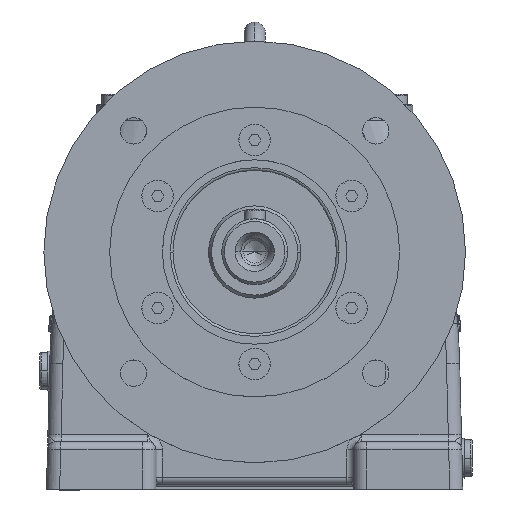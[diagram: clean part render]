
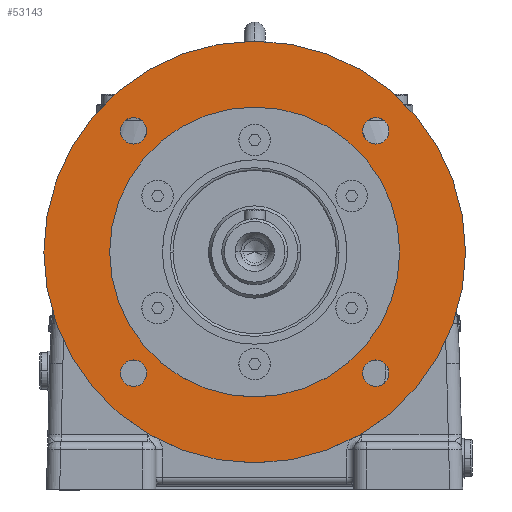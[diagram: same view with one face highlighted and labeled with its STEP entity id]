
A CAD part, top view. The second image highlights one B-rep face of the part: STEP entity #53143.
In plain terms, the highlighted planar face has unit normal (0, 0, 1).
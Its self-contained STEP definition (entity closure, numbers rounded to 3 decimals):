
#35477 = CARTESIAN_POINT ( 'NONE',  ( -40.962, 45.962, -5. ) ) ;
#35478 = DIRECTION ( 'NONE',  ( 1., 0., 0. ) ) ;
#35479 = DIRECTION ( 'NONE',  ( 0., 0., 1. ) ) ;
#35480 = CARTESIAN_POINT ( 'NONE',  ( -45.962, 45.962, -5. ) ) ;
#35481 = AXIS2_PLACEMENT_3D ( 'NONE', #35480, #35479, #35478 ) ;
#35482 = CIRCLE ( 'NONE', #35481, 5. ) ;
#35488 = CARTESIAN_POINT ( 'NONE',  ( -50.962, 45.962, -5. ) ) ;
#36940 = CARTESIAN_POINT ( 'NONE',  ( -50.962, -45.962, -5. ) ) ;
#36987 = CARTESIAN_POINT ( 'NONE',  ( -40.962, -45.962, -5. ) ) ;
#36988 = DIRECTION ( 'NONE',  ( 1., 0., 0. ) ) ;
#36989 = DIRECTION ( 'NONE',  ( 0., 0., 1. ) ) ;
#36990 = CARTESIAN_POINT ( 'NONE',  ( -45.962, -45.962, -5. ) ) ;
#36991 = AXIS2_PLACEMENT_3D ( 'NONE', #36990, #36989, #36988 ) ;
#36992 = CIRCLE ( 'NONE', #36991, 5. ) ;
#37080 = CARTESIAN_POINT ( 'NONE',  ( 50.962, 45.962, -5. ) ) ;
#37081 = DIRECTION ( 'NONE',  ( 1., 0., 0. ) ) ;
#37082 = DIRECTION ( 'NONE',  ( 0., 0., 1. ) ) ;
#37083 = CARTESIAN_POINT ( 'NONE',  ( 45.962, 45.962, -5. ) ) ;
#37084 = AXIS2_PLACEMENT_3D ( 'NONE', #37083, #37082, #37081 ) ;
#37085 = CIRCLE ( 'NONE', #37084, 5. ) ;
#37086 = CARTESIAN_POINT ( 'NONE',  ( 40.962, 45.962, -5. ) ) ;
#37633 = CARTESIAN_POINT ( 'NONE',  ( 50.962, -45.962, -5. ) ) ;
#37639 = DIRECTION ( 'NONE',  ( 1., 0., 0. ) ) ;
#37640 = DIRECTION ( 'NONE',  ( 0., 0., 1. ) ) ;
#37641 = CARTESIAN_POINT ( 'NONE',  ( 45.962, -45.962, -5. ) ) ;
#37642 = AXIS2_PLACEMENT_3D ( 'NONE', #37641, #37640, #37639 ) ;
#37643 = CIRCLE ( 'NONE', #37642, 5. ) ;
#37644 = CARTESIAN_POINT ( 'NONE',  ( 40.962, -45.962, -5. ) ) ;
#37681 = CARTESIAN_POINT ( 'NONE',  ( 0., 0., -5. ) ) ;
#37687 = CARTESIAN_POINT ( 'NONE',  ( -80., 0., -5. ) ) ;
#37737 = CARTESIAN_POINT ( 'NONE',  ( 80., 0., -5. ) ) ;
#37738 = DIRECTION ( 'NONE',  ( 1., 0., 0. ) ) ;
#37739 = DIRECTION ( 'NONE',  ( 0., 0., 1. ) ) ;
#37740 = AXIS2_PLACEMENT_3D ( 'NONE', #37681, #37739, #37738 ) ;
#37741 = CIRCLE ( 'NONE', #37740, 80. ) ;
#37755 = CARTESIAN_POINT ( 'NONE',  ( -55., 0., -5. ) ) ;
#37756 = CARTESIAN_POINT ( 'NONE',  ( 55., 0., -5. ) ) ;
#37757 = DIRECTION ( 'NONE',  ( 1., 0., 0. ) ) ;
#37758 = DIRECTION ( 'NONE',  ( 0., 0., 1. ) ) ;
#37759 = CARTESIAN_POINT ( 'NONE',  ( 0., 0., -5. ) ) ;
#37760 = AXIS2_PLACEMENT_3D ( 'NONE', #37759, #37758, #37757 ) ;
#37761 = CIRCLE ( 'NONE', #37760, 55. ) ;
#38034 = CIRCLE ( 'NONE', #38099, 5. ) ;
#38035 = DIRECTION ( 'NONE',  ( -1., 0., 0. ) ) ;
#38036 = DIRECTION ( 'NONE',  ( 0., 0., -1. ) ) ;
#38037 = CARTESIAN_POINT ( 'NONE',  ( 0., 55., -5. ) ) ;
#38038 = AXIS2_PLACEMENT_3D ( 'NONE', #38037, #38036, #38035 ) ;
#38039 = PLANE ( 'NONE',  #38038 ) ;
#38053 = FACE_BOUND ( 'NONE', #53234, .T. ) ;
#38054 = FACE_BOUND ( 'NONE', #53201, .T. ) ;
#38055 = FACE_OUTER_BOUND ( 'NONE', #53193, .T. ) ;
#38056 = FACE_BOUND ( 'NONE', #53185, .T. ) ;
#38057 = FACE_BOUND ( 'NONE', #42488, .T. ) ;
#38058 = FACE_BOUND ( 'NONE', #53145, .T. ) ;
#38096 = DIRECTION ( 'NONE',  ( 1., 0., 0. ) ) ;
#38097 = DIRECTION ( 'NONE',  ( 0., 0., 1. ) ) ;
#38098 = CARTESIAN_POINT ( 'NONE',  ( -45.962, 45.962, -5. ) ) ;
#38099 = AXIS2_PLACEMENT_3D ( 'NONE', #38098, #38097, #38096 ) ;
#38100 = DIRECTION ( 'NONE',  ( 1., 0., 0. ) ) ;
#38101 = DIRECTION ( 'NONE',  ( 0., 0., 1. ) ) ;
#38102 = CARTESIAN_POINT ( 'NONE',  ( 0., 0., -5. ) ) ;
#38103 = AXIS2_PLACEMENT_3D ( 'NONE', #38102, #38101, #38100 ) ;
#38104 = CIRCLE ( 'NONE', #38103, 55. ) ;
#38111 = DIRECTION ( 'NONE',  ( 1., 0., 0. ) ) ;
#38112 = DIRECTION ( 'NONE',  ( 0., 0., 1. ) ) ;
#38113 = CARTESIAN_POINT ( 'NONE',  ( 45.962, -45.962, -5. ) ) ;
#38114 = AXIS2_PLACEMENT_3D ( 'NONE', #38113, #38112, #38111 ) ;
#38115 = CIRCLE ( 'NONE', #38114, 5. ) ;
#38152 = DIRECTION ( 'NONE',  ( 1., 0., 0. ) ) ;
#38153 = DIRECTION ( 'NONE',  ( 0., 0., 1. ) ) ;
#38154 = CARTESIAN_POINT ( 'NONE',  ( 0., 0., -5. ) ) ;
#38155 = AXIS2_PLACEMENT_3D ( 'NONE', #38154, #38153, #38152 ) ;
#38156 = CIRCLE ( 'NONE', #38155, 80. ) ;
#38213 = DIRECTION ( 'NONE',  ( 1., 0., 0. ) ) ;
#38214 = DIRECTION ( 'NONE',  ( 0., 0., 1. ) ) ;
#38215 = CARTESIAN_POINT ( 'NONE',  ( 45.962, 45.962, -5. ) ) ;
#38216 = AXIS2_PLACEMENT_3D ( 'NONE', #38215, #38214, #38213 ) ;
#38217 = CIRCLE ( 'NONE', #38216, 5. ) ;
#38224 = DIRECTION ( 'NONE',  ( 1., 0., 0. ) ) ;
#38225 = DIRECTION ( 'NONE',  ( 0., 0., 1. ) ) ;
#38226 = CARTESIAN_POINT ( 'NONE',  ( -45.962, -45.962, -5. ) ) ;
#38227 = AXIS2_PLACEMENT_3D ( 'NONE', #38226, #38225, #38224 ) ;
#38228 = CIRCLE ( 'NONE', #38227, 5. ) ;
#42488 = EDGE_LOOP ( 'NONE', ( #53180, #53183 ) ) ;
#52554 = VERTEX_POINT ( 'NONE', #35488 ) ;
#52559 = EDGE_CURVE ( 'NONE', #52554, #52560, #35482, .T. ) ;
#52560 = VERTEX_POINT ( 'NONE', #35477 ) ;
#52606 = VERTEX_POINT ( 'NONE', #36940 ) ;
#52611 = EDGE_CURVE ( 'NONE', #52606, #52612, #36992, .T. ) ;
#52612 = VERTEX_POINT ( 'NONE', #36987 ) ;
#52682 = VERTEX_POINT ( 'NONE', #37086 ) ;
#52685 = EDGE_CURVE ( 'NONE', #52682, #52687, #37085, .T. ) ;
#52687 = VERTEX_POINT ( 'NONE', #37080 ) ;
#52918 = VERTEX_POINT ( 'NONE', #37644 ) ;
#52922 = EDGE_CURVE ( 'NONE', #52918, #52924, #37643, .T. ) ;
#52924 = VERTEX_POINT ( 'NONE', #37633 ) ;
#52970 = VERTEX_POINT ( 'NONE', #37687 ) ;
#52975 = EDGE_CURVE ( 'NONE', #52976, #52970, #37741, .T. ) ;
#52976 = VERTEX_POINT ( 'NONE', #37737 ) ;
#52988 = EDGE_CURVE ( 'NONE', #52990, #52991, #37761, .T. ) ;
#52990 = VERTEX_POINT ( 'NONE', #37756 ) ;
#52991 = VERTEX_POINT ( 'NONE', #37755 ) ;
#53143 = ADVANCED_FACE ( 'NONE', ( #38058, #38057, #38056, #38055, #38054, #38053 ), #38039, .F. ) ;
#53145 = EDGE_LOOP ( 'NONE', ( #53146, #53151 ) ) ;
#53146 = ORIENTED_EDGE ( 'NONE', *, *, #53148, .F. ) ;
#53148 = EDGE_CURVE ( 'NONE', #52560, #52554, #38034, .T. ) ;
#53151 = ORIENTED_EDGE ( 'NONE', *, *, #52559, .F. ) ;
#53180 = ORIENTED_EDGE ( 'NONE', *, *, #53181, .F. ) ;
#53181 = EDGE_CURVE ( 'NONE', #52924, #52918, #38115, .T. ) ;
#53183 = ORIENTED_EDGE ( 'NONE', *, *, #52922, .F. ) ;
#53185 = EDGE_LOOP ( 'NONE', ( #53187, #53189 ) ) ;
#53187 = ORIENTED_EDGE ( 'NONE', *, *, #52988, .F. ) ;
#53189 = ORIENTED_EDGE ( 'NONE', *, *, #53191, .F. ) ;
#53191 = EDGE_CURVE ( 'NONE', #52991, #52990, #38104, .T. ) ;
#53193 = EDGE_LOOP ( 'NONE', ( #53196, #53198 ) ) ;
#53196 = ORIENTED_EDGE ( 'NONE', *, *, #52975, .T. ) ;
#53198 = ORIENTED_EDGE ( 'NONE', *, *, #53200, .T. ) ;
#53200 = EDGE_CURVE ( 'NONE', #52970, #52976, #38156, .T. ) ;
#53201 = EDGE_LOOP ( 'NONE', ( #53229, #53233 ) ) ;
#53229 = ORIENTED_EDGE ( 'NONE', *, *, #53231, .F. ) ;
#53231 = EDGE_CURVE ( 'NONE', #52612, #52606, #38228, .T. ) ;
#53233 = ORIENTED_EDGE ( 'NONE', *, *, #52611, .F. ) ;
#53234 = EDGE_LOOP ( 'NONE', ( #53237, #53241 ) ) ;
#53237 = ORIENTED_EDGE ( 'NONE', *, *, #53239, .F. ) ;
#53239 = EDGE_CURVE ( 'NONE', #52687, #52682, #38217, .T. ) ;
#53241 = ORIENTED_EDGE ( 'NONE', *, *, #52685, .F. ) ;
